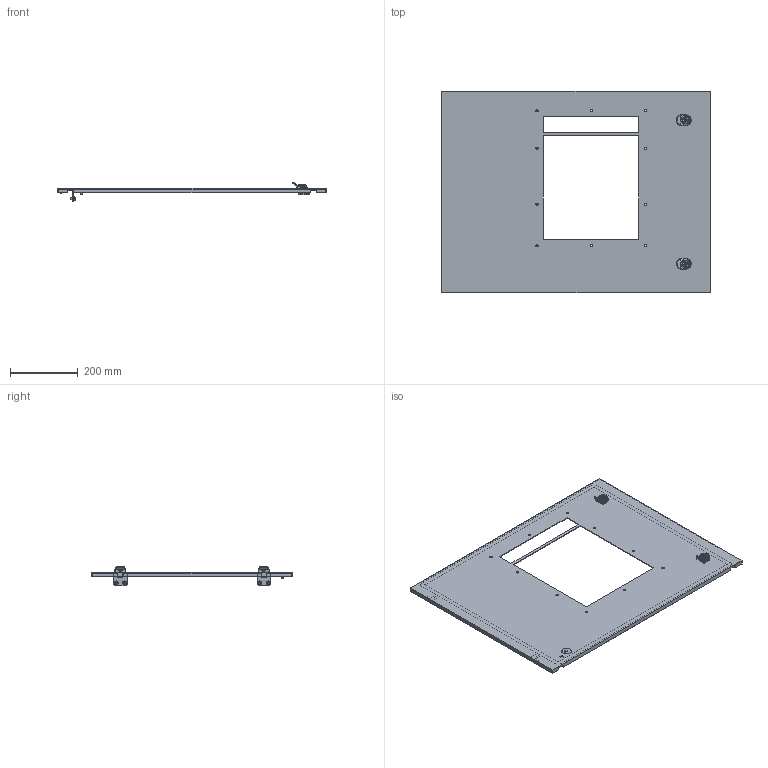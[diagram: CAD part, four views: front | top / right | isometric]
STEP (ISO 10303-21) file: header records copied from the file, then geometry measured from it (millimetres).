
FILE_DESCRIPTION (( 'STEP AP214' ), '1' );
FILE_NAME ('FO-00-ESDG-060-080 Äâåðü ñåêöèîííàÿ âíåøíÿÿ ñ âûðåçîì äëÿ ARMAT ACB òèïîðàçìåð G âûê. èñï. 3P 600õ800 ìì.STEP', '2025-08-20T06:49:47', ( '' ), ( '' ), 'SwSTEP 2.0', 'SolidWorks 2023', '' );
FILE_SCHEMA (( 'AUTOMOTIVE_DESIGN' ));
Length unit declared in the file: millimetre
Products named in the file (4): FO-00-ESDG-060-080 Дверь секционная внешняя с вырезом для ARMAT ACB типоразмер G вык. исп. 3P 600х800 мм.STEP; Дверь секционная внешняя с вырезом для ARMAT ACB типоразмер G вык. исп. 3P 600х800 мм.STEP; FO-00-ESDG-060-080 Дверь секционная внешняя с вырезом для ARMAT ACB типоразмер G вык. исп. 3P 600х800 мм; Петля_17.STEP
Assembly tree (4 placements, depth 3):
  FO-00-ESDG-060-080 Дверь секционная внешняя с вырезом для ARMAT ACB типоразмер G вык. исп. 3P 600х800 мм
    FO-00-ESDG-060-080 Дверь секционная внешняя с вырезом для ARMAT ACB типоразмер G вык. исп. 3P 600х800 мм.STEP
      Дверь секционная внешняя с вырезом для ARMAT ACB типоразмер G вык. исп. 3P 600х800 мм.STEP
      Петля_17.STEP  x2
Bounding box: 795 x 596 x 57.25 mm (x, y, z)
Volume: 947496.2 mm3; surface area: 854568.9 mm2
Topology: 3 solids, 12 shells, 731 faces, 1887 edges, 1222 vertices
Faces by surface type: plane 351, cylinder 288, torus 34, bspline 30, cone 28
Entity records: 21630 total; most frequent: CARTESIAN_POINT 5938, ORIENTED_EDGE 3264, DIRECTION 3242, EDGE_CURVE 1632, AXIS2_PLACEMENT_3D 1118, VERTEX_POINT 1060, VECTOR 1006, LINE 1006
